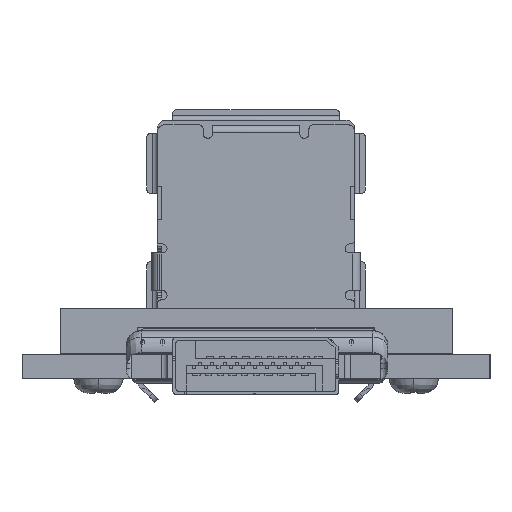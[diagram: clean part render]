
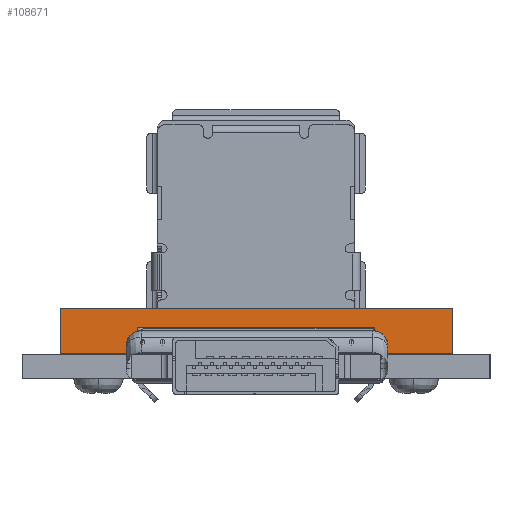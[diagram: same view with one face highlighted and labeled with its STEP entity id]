
A CAD part, front view. The second image highlights one B-rep face of the part: STEP entity #108671.
In plain terms, the highlighted planar face has unit normal (0, -1, 0) as drawn and (0, 1, 0) by its records, which use the part's own axes.
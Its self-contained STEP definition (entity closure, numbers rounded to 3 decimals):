
#108457 = VERTEX_POINT('',#108458);
#108458 = CARTESIAN_POINT('',(75.096,28.2,-1.3));
#108464 = EDGE_CURVE('',#108457,#108465,#108467,.T.);
#108465 = VERTEX_POINT('',#108466);
#108466 = CARTESIAN_POINT('',(90.806,28.2,-1.3));
#108467 = LINE('',#108468,#108469);
#108468 = CARTESIAN_POINT('',(0.,28.2,-1.3));
#108469 = VECTOR('',#108470,1.);
#108470 = DIRECTION('',(1.,0.,0.));
#108498 = VERTEX_POINT('',#108499);
#108499 = CARTESIAN_POINT('',(95.951,28.2,0.));
#108505 = EDGE_CURVE('',#108506,#108498,#108508,.T.);
#108506 = VERTEX_POINT('',#108507);
#108507 = CARTESIAN_POINT('',(69.951,28.2,0.));
#108508 = LINE('',#108509,#108510);
#108509 = CARTESIAN_POINT('',(0.,28.2,0.));
#108510 = VECTOR('',#108511,1.);
#108511 = DIRECTION('',(1.,0.,0.));
#108574 = VERTEX_POINT('',#108575);
#108575 = CARTESIAN_POINT('',(69.951,28.2,-3.));
#108581 = EDGE_CURVE('',#108574,#108582,#108584,.T.);
#108582 = VERTEX_POINT('',#108583);
#108583 = CARTESIAN_POINT('',(75.096,28.2,-3.));
#108584 = LINE('',#108585,#108586);
#108585 = CARTESIAN_POINT('',(0.,28.2,-3.));
#108586 = VECTOR('',#108587,1.);
#108587 = DIRECTION('',(1.,0.,0.));
#108624 = VERTEX_POINT('',#108625);
#108625 = CARTESIAN_POINT('',(90.806,28.2,-3.));
#108631 = EDGE_CURVE('',#108624,#108632,#108634,.T.);
#108632 = VERTEX_POINT('',#108633);
#108633 = CARTESIAN_POINT('',(95.951,28.2,-3.));
#108634 = LINE('',#108635,#108636);
#108635 = CARTESIAN_POINT('',(0.,28.2,-3.));
#108636 = VECTOR('',#108637,1.);
#108637 = DIRECTION('',(1.,0.,0.));
#108661 = EDGE_CURVE('',#108632,#108498,#108662,.T.);
#108662 = LINE('',#108663,#108664);
#108663 = CARTESIAN_POINT('',(95.951,28.2,-3.));
#108664 = VECTOR('',#108665,1.);
#108665 = DIRECTION('',(0.,0.,1.));
#108671 = ADVANCED_FACE('',(#108672),#108697,.F.);
#108672 = FACE_BOUND('',#108673,.T.);
#108673 = EDGE_LOOP('',(#108674,#108675,#108676,#108677,#108683,#108684,
    #108690,#108691));
#108674 = ORIENTED_EDGE('',*,*,#108505,.T.);
#108675 = ORIENTED_EDGE('',*,*,#108661,.F.);
#108676 = ORIENTED_EDGE('',*,*,#108631,.F.);
#108677 = ORIENTED_EDGE('',*,*,#108678,.T.);
#108678 = EDGE_CURVE('',#108624,#108465,#108679,.T.);
#108679 = LINE('',#108680,#108681);
#108680 = CARTESIAN_POINT('',(90.806,28.2,-3.));
#108681 = VECTOR('',#108682,1.);
#108682 = DIRECTION('',(0.,0.,1.));
#108683 = ORIENTED_EDGE('',*,*,#108464,.F.);
#108684 = ORIENTED_EDGE('',*,*,#108685,.F.);
#108685 = EDGE_CURVE('',#108582,#108457,#108686,.T.);
#108686 = LINE('',#108687,#108688);
#108687 = CARTESIAN_POINT('',(75.096,28.2,-3.));
#108688 = VECTOR('',#108689,1.);
#108689 = DIRECTION('',(0.,0.,1.));
#108690 = ORIENTED_EDGE('',*,*,#108581,.F.);
#108691 = ORIENTED_EDGE('',*,*,#108692,.T.);
#108692 = EDGE_CURVE('',#108574,#108506,#108693,.T.);
#108693 = LINE('',#108694,#108695);
#108694 = CARTESIAN_POINT('',(69.951,28.2,-3.));
#108695 = VECTOR('',#108696,1.);
#108696 = DIRECTION('',(0.,0.,1.));
#108697 = PLANE('',#108698);
#108698 = AXIS2_PLACEMENT_3D('',#108699,#108700,#108701);
#108699 = CARTESIAN_POINT('',(0.,28.2,-3.));
#108700 = DIRECTION('',(0.,-1.,0.));
#108701 = DIRECTION('',(0.,0.,-1.));
